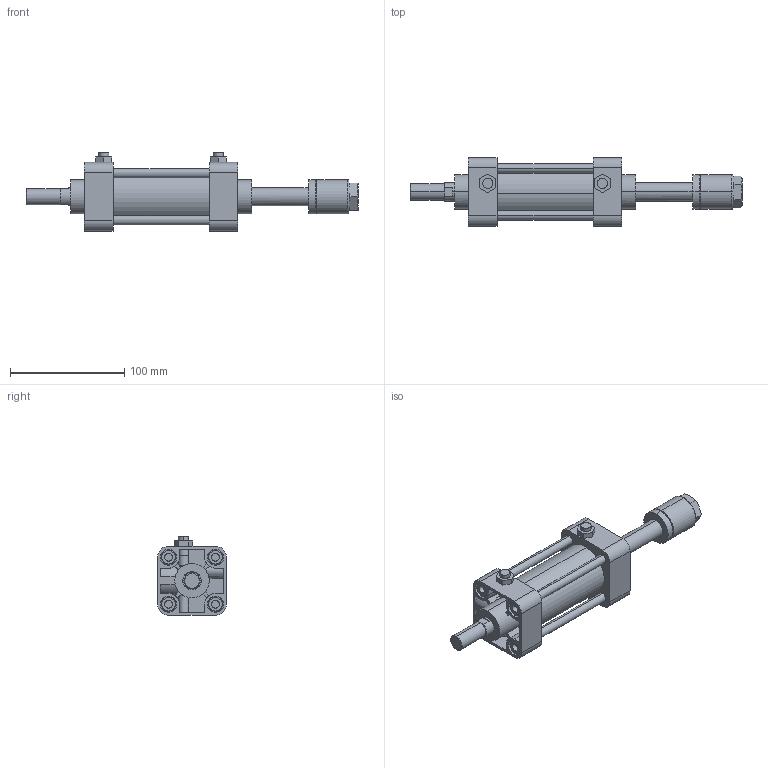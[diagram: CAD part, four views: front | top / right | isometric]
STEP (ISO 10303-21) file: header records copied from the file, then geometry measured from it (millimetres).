
FILE_DESCRIPTION (( 'STEP AP203' ), '1' );
FILE_NAME ('KGA7-40#-50-N.STEP', '2016-04-14T07:48:25', ( '' ), ( '' ), 'SwSTEP 2.0', 'SolidWorks 2014', '' );
FILE_SCHEMA (( 'CONFIG_CONTROL_DESIGN' ));
Length unit declared in the file: millimetre
Products named in the file (8): K#7-40-50-After; KGA7-40#-50-N; KGLH2-40-50; KGA7-40-Turn
Assembly tree (17 placements, depth 2):
  KGA7-40#-50-N
    K#7-40-50-After
    KGLH2-40-50
    (unnamed)
    (unnamed)  x4
    (unnamed)  x8
    KGA7-40-Turn
    (unnamed)
Bounding box: 290 x 60 x 68.3 mm (x, y, z)
Volume: 347277.6 mm3; surface area: 97088.4 mm2
Topology: 17 solids, 22 shells, 381 faces, 869 edges, 551 vertices
Faces by surface type: plane 161, cylinder 146, torus 46, cone 28
Entity records: 9913 total; most frequent: CARTESIAN_POINT 2010, DIRECTION 1485, ORIENTED_EDGE 1358, EDGE_CURVE 679, AXIS2_PLACEMENT_3D 569, VERTEX_POINT 441, VECTOR 347, LINE 347
